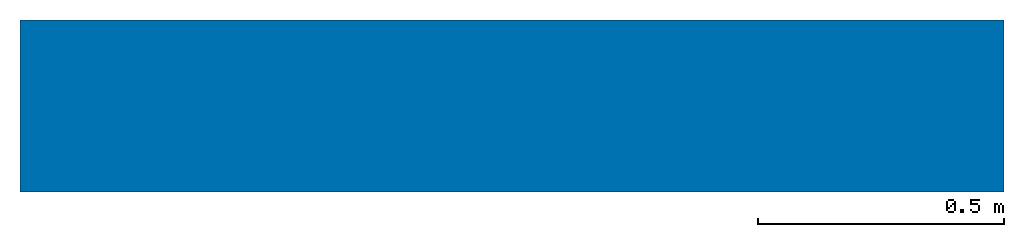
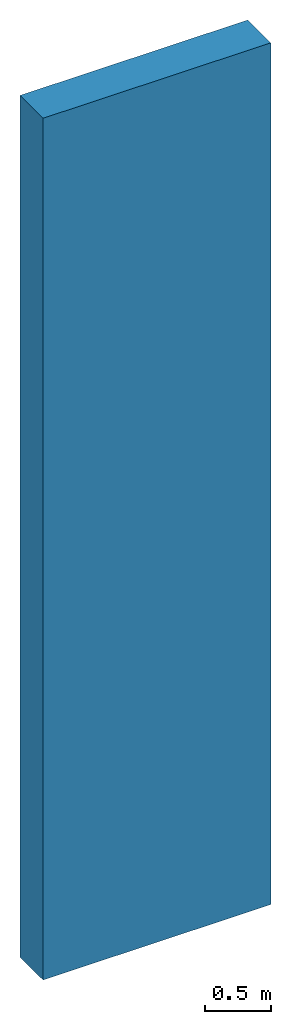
# One storey, incomplete: 1 wall.
"""IFC2X3 building model written with IfcOpenShell, lengths in millimetres."""

import ifcopenshell
import ifcopenshell.guid

model = None  # the IFC model being written
_history = None  # IfcOwnerHistory: only IFC2X3 demands one
_inside = {}  # id of a spatial element -> (the spatial element, [elements in it])
_under = {}  # id of a project, library or spatial element -> (it, [spatial elements below it])
_declared = {}  # id of a project -> (the project, [libraries it declares])
_typed = {}  # id of a type object -> (the type object, [elements of that type])
_made_of = {}  # id of a material, layer set ... -> (it, [elements and type objects made of it])


def new_model(schema):
    """Start an empty IFC model of exactly this schema.

    Asked for "IFC4X3", IfcOpenShell would pick the latest addendum, in which some entities
    have other attributes; the version numbers below select the first issue.
    IFC2X3 requires an IfcOwnerHistory on every rooted entity: one is made here for all.
    """
    global model, _history
    if schema == "IFC4X3":
        model = ifcopenshell.file(schema_version=(4, 3, 0, 0))
    else:
        model = ifcopenshell.file(schema=schema)
    _inside.clear()
    _under.clear()
    _declared.clear()
    _typed.clear()
    _made_of.clear()
    _history = None
    if model.schema == "IFC2X3":
        org = make("IfcOrganization", Name="unknown")
        user = make(
            "IfcPersonAndOrganization",
            ThePerson=make("IfcPerson", FamilyName="unknown"),
            TheOrganization=org,
        )
        app = make(
            "IfcApplication",
            ApplicationDeveloper=org,
            Version="unknown",
            ApplicationFullName="unknown",
            ApplicationIdentifier="unknown",
        )
        _history = make(
            "IfcOwnerHistory",
            OwningUser=user,
            OwningApplication=app,
            ChangeAction="ADDED",
            CreationDate=0,
        )
    return model


def make(cls, **values):
    """One entity of the class cls with the attributes given. An attribute that is None is left unset."""
    return model.create_entity(
        cls, **{name: value for name, value in values.items() if value is not None}
    )


def entity(cls, *values):
    """Any entity or typed value of the class cls, its attributes in the order of the schema. None: left unset."""
    e = model.create_entity(cls)
    for i, value in enumerate(values):
        if value is not None:
            e[i] = value
    return e


def rooted(cls, **values):
    """An entity with a GlobalId (a new one), such as an element, a storey or a relation."""
    return make(cls, GlobalId=ifcopenshell.guid.new(), OwnerHistory=_history, **values)


def si_unit(unit_type, name, prefix=None):
    """IfcSIUnit, for example si_unit("LENGTHUNIT", "METRE", prefix="MILLI")."""
    return make("IfcSIUnit", UnitType=unit_type, Prefix=prefix, Name=name)


def converted_unit(unit_type, name, factor, base, dimensions=None, offset=None):
    """IfcConversionBasedUnit, such as the inch: factor (a typed value) times the base unit."""
    return make(
        "IfcConversionBasedUnit"
        if offset is None
        else "IfcConversionBasedUnitWithOffset",
        ConversionOffset=offset,
        Dimensions=None
        if dimensions is None
        else entity("IfcDimensionalExponents", *dimensions),
        UnitType=unit_type,
        Name=name,
        ConversionFactor=make(
            "IfcMeasureWithUnit", ValueComponent=factor, UnitComponent=base
        ),
    )


def derived_unit(unit_type, elements):
    """IfcDerivedUnit: a product of units, each with its exponent."""
    return make(
        "IfcDerivedUnit",
        Elements=[
            make("IfcDerivedUnitElement", Unit=unit, Exponent=power)
            for unit, power in elements
        ],
        UnitType=unit_type,
    )


def assignment(units):
    """IfcUnitAssignment: the units of a project."""
    return None if units is None else make("IfcUnitAssignment", Units=units)


def point(xyz):
    """IfcCartesianPoint."""
    return None if xyz is None else make("IfcCartesianPoint", Coordinates=xyz)


def direction(xyz):
    """IfcDirection."""
    return None if xyz is None else make("IfcDirection", DirectionRatios=xyz)


def frame(location, z_axis=None, x_axis=None):
    """IfcAxis2Placement3D, a coordinate frame: its origin and axes. An axis left out is left unset."""
    return make(
        "IfcAxis2Placement3D",
        Location=point(location),
        Axis=direction(z_axis),
        RefDirection=direction(x_axis),
    )


def frame_2d(location, x_axis=None):
    """IfcAxis2Placement2D, a coordinate frame in the plane: its origin and x axis."""
    return make(
        "IfcAxis2Placement2D", Location=point(location), RefDirection=direction(x_axis)
    )


def origin():
    """The frame at (0, 0, 0) with its axes left unset."""
    return frame((0.0, 0.0, 0.0))


def place(relative_to, where):
    """IfcLocalPlacement: puts the frame where relative to a parent placement (None: the world)."""
    return make(
        "IfcLocalPlacement", PlacementRelTo=relative_to, RelativePlacement=where
    )


def context(
    kind, dimensions, precision=None, world=None, true_north=None, identifier=None
):
    """IfcGeometricRepresentationContext, for example the 3D "Model" context."""
    return make(
        "IfcGeometricRepresentationContext",
        ContextIdentifier=identifier,
        ContextType=kind,
        CoordinateSpaceDimension=dimensions,
        Precision=precision,
        WorldCoordinateSystem=world,
        TrueNorth=true_north,
    )


def subcontext(parent, identifier, kind, view, scale=None):
    """IfcGeometricRepresentationSubContext, for example "Body" below "Model"."""
    return make(
        "IfcGeometricRepresentationSubContext",
        ContextIdentifier=identifier,
        ContextType=kind,
        ParentContext=parent,
        TargetScale=scale,
        TargetView=view,
    )


def project(units=None, contexts=None):
    """IfcProject with its units and contexts."""
    return rooted(
        "IfcProject",
        Name="project",
        RepresentationContexts=contexts,
        UnitsInContext=assignment(units),
    )


def spatial(cls, under=None, at=None, **own):
    """A site, building, storey or space (cls), placed at a placement, below another one or the project."""
    s = rooted(cls, ObjectPlacement=at, **own)
    if under is not None:
        _under.setdefault(under.id(), (under, []))[1].append(s)
    return s


def profile(cls, at=None, kind="AREA", **sizes):
    """A parametric profile (cls). Its sizes go by their IFC names, for example OverallWidth=200.0."""
    return make(cls, ProfileType=kind, Position=at, **sizes)


def rectangle(**sizes):
    """IfcRectangleProfileDef."""
    return profile("IfcRectangleProfileDef", **sizes)


def extrude(swept, where, along, depth):
    """IfcExtrudedAreaSolid: the profile swept, set in the frame where, extruded along a direction by depth."""
    return make(
        "IfcExtrudedAreaSolid",
        SweptArea=swept,
        Position=where,
        ExtrudedDirection=direction(along),
        Depth=depth,
    )


def shape(context_of_items, identifier, shape_type, items):
    """IfcShapeRepresentation: the items that make up one representation, for example the "Body"."""
    return make(
        "IfcShapeRepresentation",
        ContextOfItems=context_of_items,
        RepresentationIdentifier=identifier,
        RepresentationType=shape_type,
        Items=items,
    )


def made_of(thing, what):
    """Note that an element or type object is made of a material, layer set ...; save() writes the relation."""
    if what is not None:
        _made_of.setdefault(what.id(), (what, []))[1].append(thing)
    return thing


def type_object(cls, material=None, **own):
    """A type object (cls), such as IfcWallType, which elements share."""
    return made_of(rooted(cls, **own), material)


def element(
    cls,
    number,
    at=None,
    inside=None,
    cuts=None,
    type_object=None,
    material=None,
    context=None,
    identifier="Body",
    shape_type=None,
    held_by="IfcProductDefinitionShape",
    body=None,
    shapes=None,
    **own,
):
    """One element of the class cls, such as IfcWall. Its Tag is "e" and its number.

    at: its placement. inside: the storey or other place that contains it. cuts: it is an
    opening in that element (IfcRelVoidsElement). A single representation is given by context,
    identifier, shape_type and body (its items); several are given by shapes. held_by: the class
    of the entity that holds the representations. save() writes the other relations.
    """
    e = rooted(cls, Tag="e%d" % number, ObjectPlacement=at, **own)
    if body is not None:
        shapes = [shape(context, identifier, shape_type, body)]
    if shapes is not None:
        e.Representation = make(held_by, Representations=shapes)
    if inside is not None:
        _inside.setdefault(inside.id(), (inside, []))[1].append(e)
    if cuts is not None:
        rooted(
            "IfcRelVoidsElement", RelatingBuildingElement=cuts, RelatedOpeningElement=e
        )
    if type_object is not None:
        _typed.setdefault(type_object.id(), (type_object, []))[1].append(e)
    return made_of(e, material)


def aggregate(whole, parts):
    """IfcRelAggregates: a whole, such as a stair, and the parts it consists of."""
    return rooted("IfcRelAggregates", RelatingObject=whole, RelatedObjects=parts)


def save(model, path):
    """Write the relations noted so far, then the file.

    IfcRelAggregates (storeys below a building ...), IfcRelContainedInSpatialStructure (elements
    in a storey), IfcRelDefinesByType, IfcRelAssociatesMaterial and IfcRelDeclares: one each for
    every whole, place, type object, material and project.
    """
    for whole, parts in _under.values():
        aggregate(whole, parts)
    for where, things in _inside.values():
        rooted(
            "IfcRelContainedInSpatialStructure",
            RelatedElements=things,
            RelatingStructure=where,
        )
    for kind, things in _typed.values():
        rooted("IfcRelDefinesByType", RelatedObjects=things, RelatingType=kind)
    for what, things in _made_of.values():
        rooted("IfcRelAssociatesMaterial", RelatedObjects=things, RelatingMaterial=what)
    for by, libraries in _declared.values():
        rooted("IfcRelDeclares", RelatingContext=by, RelatedDefinitions=libraries)
    model.write(path)


model = new_model("IFC2X3")

# Units and contexts
model_context = context("Model", 3, precision=0.01, world=origin(), true_north=direction((6.12303176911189e-17, 1.0)))
body_context = subcontext(model_context, "Body", "Model", "MODEL_VIEW")
ifc_project = project(units=[si_unit("LENGTHUNIT", "METRE", prefix="MILLI"), si_unit("AREAUNIT", "SQUARE_METRE"), si_unit("VOLUMEUNIT", "CUBIC_METRE"), converted_unit("PLANEANGLEUNIT", "DEGREE", entity("IfcRatioMeasure", 0.0174532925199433), si_unit("PLANEANGLEUNIT", "RADIAN"), dimensions=[0, 0, 0, 0, 0, 0, 0]), si_unit("MASSUNIT", "GRAM", prefix="KILO"), derived_unit("MASSDENSITYUNIT", [(si_unit("MASSUNIT", "GRAM", prefix="KILO"), 1), (si_unit("LENGTHUNIT", "METRE"), -3)]), derived_unit("MOMENTOFINERTIAUNIT", [(si_unit("LENGTHUNIT", "METRE"), 4)]), si_unit("TIMEUNIT", "SECOND"), si_unit("FREQUENCYUNIT", "HERTZ"), si_unit("THERMODYNAMICTEMPERATUREUNIT", "DEGREE_CELSIUS"), derived_unit("THERMALTRANSMITTANCEUNIT", [(si_unit("MASSUNIT", "GRAM", prefix="KILO"), 1), (si_unit("THERMODYNAMICTEMPERATUREUNIT", "KELVIN"), -1), (si_unit("TIMEUNIT", "SECOND"), -3)]), derived_unit("VOLUMETRICFLOWRATEUNIT", [(si_unit("LENGTHUNIT", "METRE"), 3), (si_unit("TIMEUNIT", "SECOND"), -1)]), si_unit("ELECTRICCURRENTUNIT", "AMPERE"), si_unit("ELECTRICVOLTAGEUNIT", "VOLT"), si_unit("POWERUNIT", "WATT"), si_unit("FORCEUNIT", "NEWTON", prefix="KILO"), si_unit("ILLUMINANCEUNIT", "LUX"), si_unit("LUMINOUSFLUXUNIT", "LUMEN"), si_unit("LUMINOUSINTENSITYUNIT", "CANDELA"), derived_unit("USERDEFINED", [(si_unit("MASSUNIT", "GRAM", prefix="KILO"), -1), (si_unit("LENGTHUNIT", "METRE"), -2), (si_unit("TIMEUNIT", "SECOND"), 3), (si_unit("LUMINOUSFLUXUNIT", "LUMEN"), 1)]), derived_unit("LINEARVELOCITYUNIT", [(si_unit("LENGTHUNIT", "METRE"), 1), (si_unit("TIMEUNIT", "SECOND"), -1)]), si_unit("PRESSUREUNIT", "PASCAL"), derived_unit("USERDEFINED", [(si_unit("LENGTHUNIT", "METRE"), -2), (si_unit("MASSUNIT", "GRAM", prefix="KILO"), 1), (si_unit("TIMEUNIT", "SECOND"), -2)]), derived_unit("LINEARFORCEUNIT", [(si_unit("MASSUNIT", "GRAM", prefix="KILO"), 1), (si_unit("LENGTHUNIT", "METRE"), 1), (si_unit("TIMEUNIT", "SECOND"), -2), (si_unit("LENGTHUNIT", "METRE"), -1)]), derived_unit("PLANARFORCEUNIT", [(si_unit("MASSUNIT", "GRAM", prefix="KILO"), 1), (si_unit("LENGTHUNIT", "METRE"), 1), (si_unit("TIMEUNIT", "SECOND"), -2), (si_unit("LENGTHUNIT", "METRE"), -2)])], contexts=[model_context])

# Site, building, storey
site_placement = place(None, origin())
site = spatial("IfcSite", under=ifc_project, at=site_placement, Name="Default", CompositionType="ELEMENT")
building_placement = place(site_placement, origin())
building = spatial("IfcBuilding", under=site, at=building_placement, CompositionType="ELEMENT")
storey_placement = place(building_placement, origin())
storey = spatial("IfcBuildingStorey", under=building, at=storey_placement, Name="Level 1", CompositionType="ELEMENT", Elevation=0.0)

# Wall
wall_type = type_object("IfcWallType", Name="Basic Wall:Exterior - Brick on Mtl. Stud", PredefinedType="STANDARD")
wall_placement = place(storey_placement, frame((-8729.41062249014, 1784.46168914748, 0.0)))
element("IfcWallStandardCase", 1, at=wall_placement, inside=storey, type_object=wall_type, Name="Basic Wall:Exterior - Brick on Mtl. Stud", ObjectType="Basic Wall:Exterior - Brick on Mtl. Stud", context=body_context, shape_type="SweptSolid", body=[
    extrude(rectangle(XDim=2000.0, YDim=350.0, at=frame_2d((1000.0, 2.8421709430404e-14), x_axis=(-1.0, 0.0))), origin(), (0.0, 0.0, 1.0), 8000.0),
])

save(model, "model.ifc")
